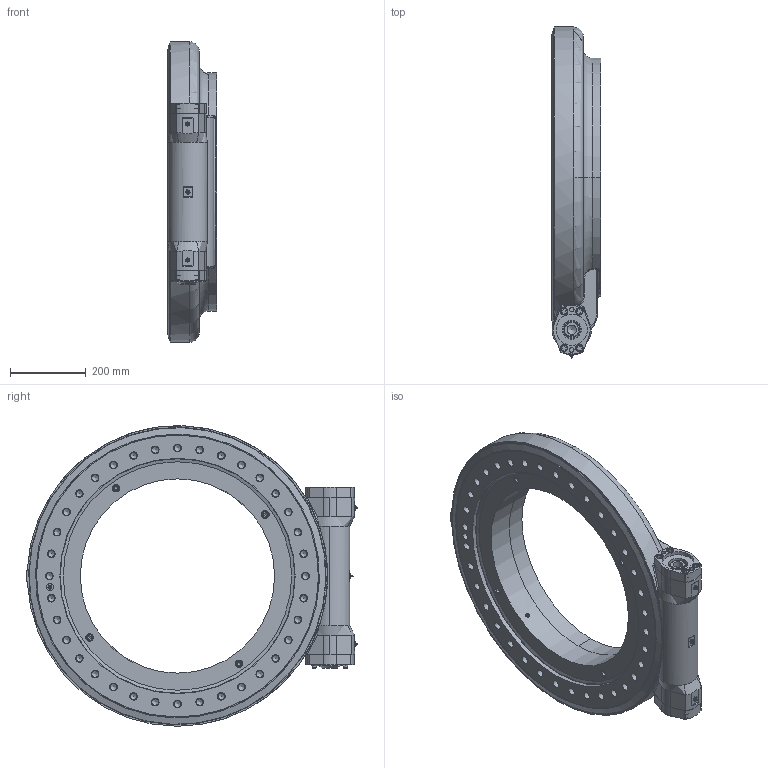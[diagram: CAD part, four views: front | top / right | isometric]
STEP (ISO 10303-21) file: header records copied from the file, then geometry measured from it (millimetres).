
FILE_DESCRIPTION (( 'STEP AP214' ), '1' );
FILE_NAME ('FGE25-150M-25H-R-REV.A.STEP', '2022-12-23T00:39:21', ( '' ), ( '' ), 'SwSTEP 2.0', 'SolidWorks 2018', '' );
FILE_SCHEMA (( 'AUTOMOTIVE_DESIGN' ));
Length unit declared in the file: millimetre
Products named in the file (1): FGE25-150M-25H-R-REV.A
Bounding box: 130 x 874.59 x 792 mm (x, y, z)
Volume: 24831128.7 mm3; surface area: 3037019.1 mm2
Topology: 19 solids, 19 shells, 1079 faces, 2377 edges, 1495 vertices
Faces by surface type: cylinder 433, plane 409, cone 142, torus 54, bspline 36, sphere 5
Full cylindrical faces by diameter (mm): 5 x2, 6 x2, 7 x5, 10 x11, 12 x6, 13 x12, 17.5 x71, 18 x12, 19 x1, 19.5 x8, 20 x75, 22 x1, 24 x1, 25.4 x1, 35 x1, 40 x4, 41.908 x2, 47 x2, 50 x4, 57 x1, 68.5 x2, 80 x2, 82.55 x1, 82.8 x2, 90.4 x2, 95 x1, 512 x1, 602 x1, 619 x1, 620 x4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
Entity records: 44676 total; most frequent: CARTESIAN_POINT 10537, DIRECTION 4786, ORIENTED_EDGE 3710, AXIS2_PLACEMENT_3D 2039, EDGE_CURVE 1855, EDGE_LOOP 1767, VERTEX_POINT 1392, FACE_OUTER_BOUND 1356
